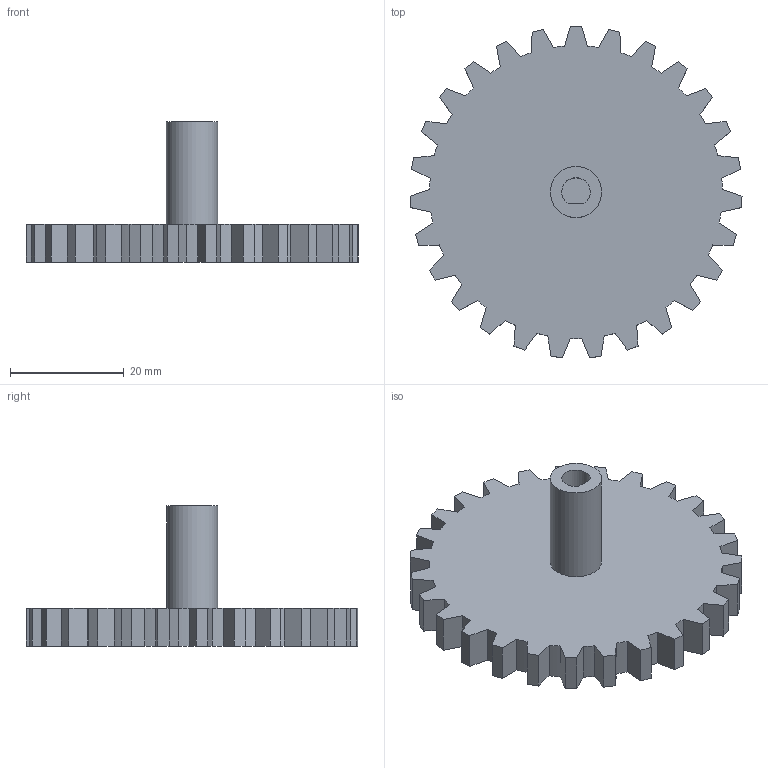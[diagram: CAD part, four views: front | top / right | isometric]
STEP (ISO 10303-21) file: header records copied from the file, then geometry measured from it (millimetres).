
FILE_DESCRIPTION(/* description */ ('STEP AP242 Edition 2','CAx-IF Rec.Pracs.---Representation and Presentation of Product Manufacturing Information (PMI)---4.0---2014-10-13','CAx-IF Rec.Pracs.---3D Tessellated Geometry---0.4---2014-09-14','2;1','CAx-IF Rec.Pracs.---User Defined Attributes---1.5---2016-08-15'),/* implementation_level */ '2;1');
FILE_NAME(/* name */ 'X-Axis Gear',/* time_stamp */ '2025-11-29T19:54:07Z',/* author */ (''),/* organization */ (''),/* preprocessor_version */ 'ST-DEVELOPER v20',/* originating_system */ 'ONSHAPE BY PTC INC, 1.207',/* authorisation */ ' ');
FILE_SCHEMA (('AP242_MANAGED_MODEL_BASED_3D_ENGINEERING_MIM_LF { 1 0 10303 442 3 1 4 }'));
Length unit declared in the file: metre
Products named in the file (1): Part 1
Bounding box: 58.26 x 58.16 x 24.6 mm (x, y, z)
Volume: 16333.9 mm3; surface area: 7500.6 mm2
Topology: 1 solids, 1 shells, 115 faces, 333 edges, 222 vertices
Faces by surface type: plane 86, cylinder 29
Full cylindrical faces by diameter (mm): 9 x1
Entity records: 3782 total; most frequent: CARTESIAN_POINT 670, ORIENTED_EDGE 664, DIRECTION 622, EDGE_CURVE 332, LINE 274, VECTOR 274, VERTEX_POINT 222, AXIS2_PLACEMENT_3D 174
